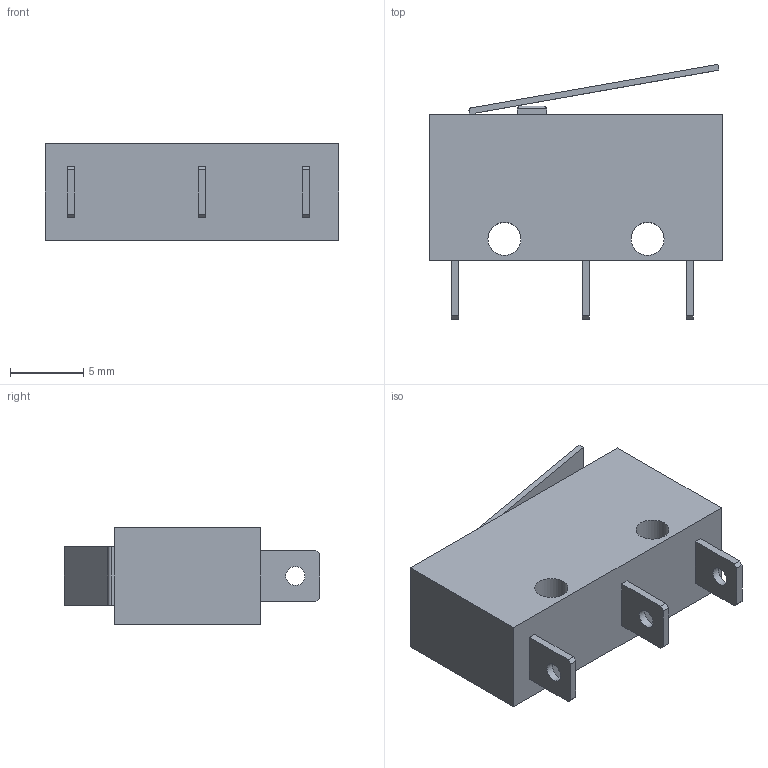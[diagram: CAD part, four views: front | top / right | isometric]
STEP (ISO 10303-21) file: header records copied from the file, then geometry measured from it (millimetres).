
FILE_DESCRIPTION(/* description */ ('Alibre Inc.'),/* implementation_level */ '2;1');
FILE_NAME(/* name */ 'export0',/* time_stamp */ '2013-07-18T14:27:14-06:00',/* author */ (''),/* organization */ (''),/* preprocessor_version */ 'ST-DEVELOPER v14',/* originating_system */ 'Alibre',/* authorisation */ '');
FILE_SCHEMA (('ALIBRE_SCHEMA','CONFIG_CONTROL_DESIGN'));
Length unit declared in the file: centimetre
Products named in the file (1): ID_1
Bounding box: 20 x 17.39 x 6.6 mm (x, y, z)
Volume: 1317.3 mm3; surface area: 1123.1 mm2
Topology: 1 solids, 1 shells, 49 faces, 122 edges, 80 vertices
Faces by surface type: plane 39, cylinder 10
Full cylindrical faces by diameter (mm): 1.3 x3, 2.25 x2
Entity records: 3752 total; most frequent: CARTESIAN_POINT 507, DIRECTION 321, CONSTRAINTPAIRUV 265, ORIENTED_EDGE 234, VECTOR 227, REFERENCEDEPENDENTUV 205, LINE 173, REFERENCEPOINTUV 146
